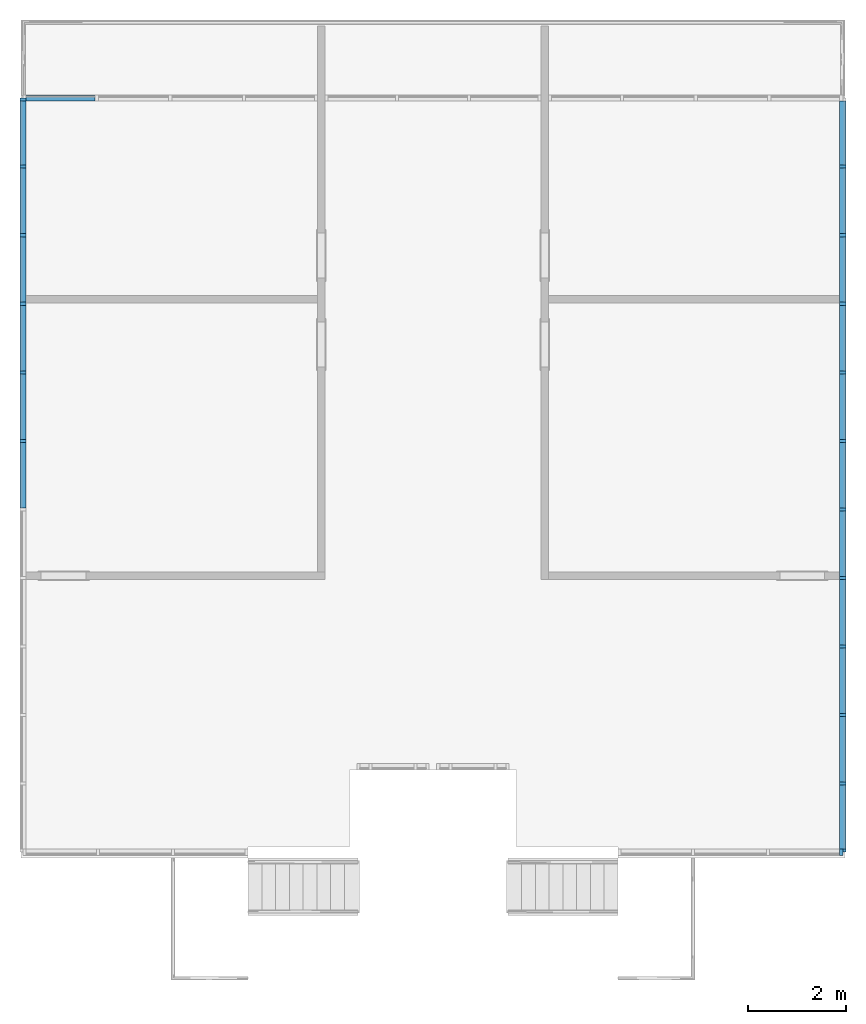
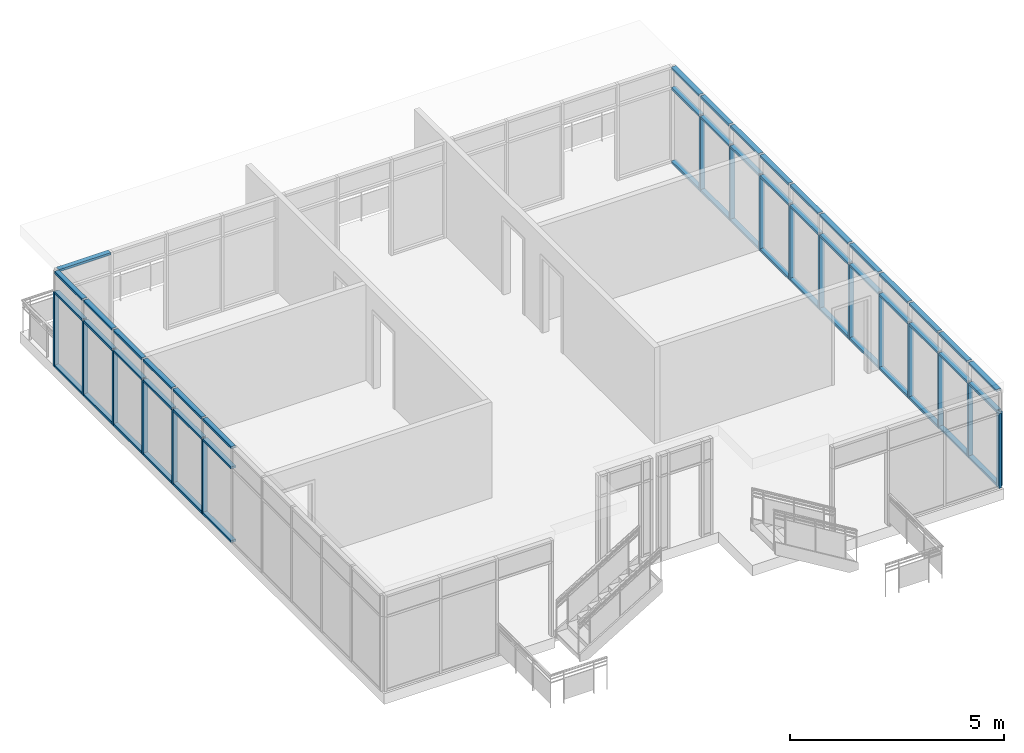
# One storey, part 2 of 11: 70 members, 4 elements without a shape of their own.
"""IFC2X3 building model written with IfcOpenShell, lengths in feet."""

from ifc_helpers import new_model, entity, si_unit, converted_unit, derived_unit, direction, frame, origin, origin_2d_with_axis, place, context, subcontext, project, spatial, rectangle, extrude, source, transform, mapped, material, type_object, type_shapes, element, aggregate, save


model = new_model("IFC2X3")

# Units and contexts
model_context = context("Model", 3, precision=0.0001, world=origin(), true_north=direction((6.12303176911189e-17, 1.0)))
body_context = subcontext(model_context, "Body", "Model", "MODEL_VIEW")
ifc_project = project(units=[converted_unit("LENGTHUNIT", "FOOT", entity("IfcRatioMeasure", 0.3048), si_unit("LENGTHUNIT", "METRE"), dimensions=[1, 0, 0, 0, 0, 0, 0]), converted_unit("AREAUNIT", "SQUARE FOOT", entity("IfcRatioMeasure", 0.09290304), si_unit("AREAUNIT", "SQUARE_METRE"), dimensions=[2, 0, 0, 0, 0, 0, 0]), converted_unit("VOLUMEUNIT", "CUBIC FOOT", entity("IfcRatioMeasure", 0.028316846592), si_unit("VOLUMEUNIT", "CUBIC_METRE"), dimensions=[3, 0, 0, 0, 0, 0, 0]), converted_unit("PLANEANGLEUNIT", "DEGREE", entity("IfcRatioMeasure", 0.0174532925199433), si_unit("PLANEANGLEUNIT", "RADIAN"), dimensions=[0, 0, 0, 0, 0, 0, 0]), si_unit("MASSUNIT", "GRAM", prefix="KILO"), derived_unit("MASSDENSITYUNIT", [(si_unit("MASSUNIT", "GRAM", prefix="KILO"), 1), (si_unit("LENGTHUNIT", "METRE"), -3)]), si_unit("TIMEUNIT", "SECOND"), si_unit("FREQUENCYUNIT", "HERTZ"), si_unit("THERMODYNAMICTEMPERATUREUNIT", "DEGREE_CELSIUS"), derived_unit("THERMALTRANSMITTANCEUNIT", [(si_unit("MASSUNIT", "GRAM", prefix="KILO"), 1), (si_unit("THERMODYNAMICTEMPERATUREUNIT", "KELVIN"), -1), (si_unit("TIMEUNIT", "SECOND"), -3)]), derived_unit("VOLUMETRICFLOWRATEUNIT", [(si_unit("LENGTHUNIT", "METRE"), 3), (si_unit("TIMEUNIT", "SECOND"), -1)]), si_unit("ELECTRICCURRENTUNIT", "AMPERE"), si_unit("ELECTRICVOLTAGEUNIT", "VOLT"), si_unit("POWERUNIT", "WATT"), si_unit("FORCEUNIT", "NEWTON"), si_unit("ILLUMINANCEUNIT", "LUX"), si_unit("LUMINOUSFLUXUNIT", "LUMEN"), si_unit("LUMINOUSINTENSITYUNIT", "CANDELA"), derived_unit("USERDEFINED", [(si_unit("MASSUNIT", "GRAM", prefix="KILO"), -1), (si_unit("LENGTHUNIT", "METRE"), -2), (si_unit("TIMEUNIT", "SECOND"), 3), (si_unit("LUMINOUSFLUXUNIT", "LUMEN"), 1)]), derived_unit("LINEARVELOCITYUNIT", [(si_unit("LENGTHUNIT", "METRE"), 1), (si_unit("TIMEUNIT", "SECOND"), -1)]), si_unit("PRESSUREUNIT", "PASCAL"), derived_unit("USERDEFINED", [(si_unit("LENGTHUNIT", "METRE"), -2), (si_unit("MASSUNIT", "GRAM", prefix="KILO"), 1), (si_unit("TIMEUNIT", "SECOND"), -2)])], contexts=[model_context])

# Site, building, storey
site_placement = place(None, origin())
site = spatial("IfcSite", under=ifc_project, at=site_placement, Name="Default", CompositionType="ELEMENT")
building_placement = place(site_placement, origin())
building = spatial("IfcBuilding", under=site, at=building_placement, CompositionType="ELEMENT")
storey_placement = place(building_placement, frame((0.0, 0.0, 50.0)))
storey = spatial("IfcBuildingStorey", under=building, at=storey_placement, Name="L 9", CompositionType="ELEMENT", Elevation=49.9999999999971)

# Curtain wall, member
curtain_wall_type = type_object("IfcCurtainWallType", Name="Curtain Wall:Storefront 2", PredefinedType="NOTDEFINED")
curtain_wall_1_placement = place(storey_placement, frame((0.0, 0.0, -50.0)))
curtain_wall_1 = element("IfcCurtainWall", 1, at=curtain_wall_1_placement, inside=storey, type_object=curtain_wall_type, Name="Curtain Wall:Storefront 2", ObjectType="Curtain Wall:Storefront 2")
ifc_material = material(Name="Aluminum")
member_type_1 = type_object("IfcMemberType", Name="2.5\" x 5\" rectangular", PredefinedType="MEMBER")
shared_shape_1 = source(origin(), body_context, "Body", "SweptSolid", [
    extrude(rectangle(XDim=0.416666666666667, YDim=0.208333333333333, at=origin_2d_with_axis()), frame((-0.104166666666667, 0.0, -7.0), z_axis=(0.0, 0.0, 1.0), x_axis=(0.0, -1.0, 0.0)), (0.0, 0.0, 1.0), 7.0),
])
type_shapes(member_type_1, [shared_shape_1])
member_1_placement = place(storey_placement, frame((-61.3251627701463, 43.3505254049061, 0.0), z_axis=(0.0, 0.0, -1.0), x_axis=(0.0, 1.0, 0.0)))
member_1 = element("IfcMember", 2, at=member_1_placement, type_object=member_type_1, material=ifc_material, Name="Rectangular Mullion:2.5\" x 5\" rectangular", ObjectType="2.5\" x 5\" rectangular", context=body_context, shape_type="MappedRepresentation", body=[
    mapped(shared_shape_1, transform((0.0, 0.0, 0.0), scale=1.0)),
])

curtain_wall_2_placement = place(storey_placement, frame((0.0, 0.0, -50.0)))
curtain_wall_2 = element("IfcCurtainWall", 3, at=curtain_wall_2_placement, inside=storey, type_object=curtain_wall_type, Name="Curtain Wall:Storefront 2", ObjectType="Curtain Wall:Storefront 2")
member_2_placement = place(storey_placement, frame((-6.65849610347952, -6.9411412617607, 0.0), z_axis=(0.0, 0.0, -1.0), x_axis=(0.0, -1.0, 0.0)))
member_2 = element("IfcMember", 4, at=member_2_placement, type_object=member_type_1, material=ifc_material, Name="Rectangular Mullion:2.5\" x 5\" rectangular", ObjectType="2.5\" x 5\" rectangular", context=body_context, shape_type="MappedRepresentation", body=[
    mapped(shared_shape_1, transform((0.0, 0.0, 0.0), scale=1.0)),
])

curtain_wall_3_placement = place(storey_placement, frame((0.0, 0.0, -50.0)))
curtain_wall_3 = element("IfcCurtainWall", 5, at=curtain_wall_3_placement, inside=storey, type_object=curtain_wall_type, Name="Curtain Wall:Storefront 2", ObjectType="Curtain Wall:Storefront 2")
member_type_2 = type_object("IfcMemberType", Name="2.5\" x 5\" rectangular", PredefinedType="MEMBER")
shared_shape_2 = source(origin(), body_context, "Body", "SweptSolid", [
    extrude(rectangle(XDim=0.416666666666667, YDim=0.208333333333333, at=origin_2d_with_axis()), frame((-0.104166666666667, 0.0, -7.0), z_axis=(0.0, 0.0, 1.0), x_axis=(0.0, -1.0, 0.0)), (0.0, 0.0, 1.0), 7.0),
])
type_shapes(member_type_2, [shared_shape_2])
member_3_placement = place(storey_placement, frame((-6.65849610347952, -6.94114126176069, 7.0)))
member_3 = element("IfcMember", 6, at=member_3_placement, type_object=member_type_2, material=ifc_material, Name="Rectangular Mullion:2.5\" x 5\" rectangular", ObjectType="2.5\" x 5\" rectangular", context=body_context, shape_type="MappedRepresentation", body=[
    mapped(shared_shape_2, transform((0.0, 0.0, 0.0), scale=1.0)),
])
aggregate(curtain_wall_3, [member_3])

# Member
member_type_3 = type_object("IfcMemberType", Name="2.5\" x 5\" rectangular", PredefinedType="MEMBER")
shared_shape_3 = source(origin(), body_context, "Body", "SweptSolid", [
    extrude(rectangle(XDim=0.416666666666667, YDim=0.208333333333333, at=origin_2d_with_axis()), frame((0.0, 0.0, -7.0), z_axis=(0.0, 0.0, 1.0), x_axis=(0.0, -1.0, 0.0)), (0.0, 0.0, 1.0), 7.0),
])
type_shapes(member_type_3, [shared_shape_3])
member_4_placement = place(storey_placement, frame((-61.3251627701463, 20.4906769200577, 0.0), z_axis=(0.0, 0.0, -1.0), x_axis=(0.0, 1.0, 0.0)))
member_4 = element("IfcMember", 7, at=member_4_placement, type_object=member_type_3, material=ifc_material, Name="Rectangular Mullion:2.5\" x 5\" rectangular", ObjectType="2.5\" x 5\" rectangular", context=body_context, shape_type="MappedRepresentation", body=[
    mapped(shared_shape_3, transform((0.0, 0.0, 0.0), scale=1.0)),
])

member_5_placement = place(storey_placement, frame((-61.3251627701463, 25.0626466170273, 0.0), z_axis=(0.0, 0.0, -1.0), x_axis=(0.0, 1.0, 0.0)))
member_5 = element("IfcMember", 8, at=member_5_placement, type_object=member_type_3, material=ifc_material, Name="Rectangular Mullion:2.5\" x 5\" rectangular", ObjectType="2.5\" x 5\" rectangular", context=body_context, shape_type="MappedRepresentation", body=[
    mapped(shared_shape_3, transform((0.0, 0.0, 0.0), scale=1.0)),
])

member_6_placement = place(storey_placement, frame((-61.3251627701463, 29.634616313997, 0.0), z_axis=(0.0, 0.0, -1.0), x_axis=(0.0, 1.0, 0.0)))
member_6 = element("IfcMember", 9, at=member_6_placement, type_object=member_type_3, material=ifc_material, Name="Rectangular Mullion:2.5\" x 5\" rectangular", ObjectType="2.5\" x 5\" rectangular", context=body_context, shape_type="MappedRepresentation", body=[
    mapped(shared_shape_3, transform((0.0, 0.0, 0.0), scale=1.0)),
])

member_7_placement = place(storey_placement, frame((-61.3251627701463, 34.2065860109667, 0.0), z_axis=(0.0, 0.0, -1.0), x_axis=(0.0, 1.0, 0.0)))
member_7 = element("IfcMember", 10, at=member_7_placement, type_object=member_type_3, material=ifc_material, Name="Rectangular Mullion:2.5\" x 5\" rectangular", ObjectType="2.5\" x 5\" rectangular", context=body_context, shape_type="MappedRepresentation", body=[
    mapped(shared_shape_3, transform((0.0, 0.0, 0.0), scale=1.0)),
])

member_8_placement = place(storey_placement, frame((-61.3251627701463, 38.7785557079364, 0.0), z_axis=(0.0, 0.0, -1.0), x_axis=(0.0, 1.0, 0.0)))
member_8 = element("IfcMember", 11, at=member_8_placement, type_object=member_type_3, material=ifc_material, Name="Rectangular Mullion:2.5\" x 5\" rectangular", ObjectType="2.5\" x 5\" rectangular", context=body_context, shape_type="MappedRepresentation", body=[
    mapped(shared_shape_3, transform((0.0, 0.0, 0.0), scale=1.0)),
])

member_9_placement = place(storey_placement, frame((-6.65849610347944, 38.7785557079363, 0.0), z_axis=(0.0, 0.0, -1.0), x_axis=(0.0, -1.0, 0.0)))
member_9 = element("IfcMember", 12, at=member_9_placement, type_object=member_type_3, material=ifc_material, Name="Rectangular Mullion:2.5\" x 5\" rectangular", ObjectType="2.5\" x 5\" rectangular", context=body_context, shape_type="MappedRepresentation", body=[
    mapped(shared_shape_3, transform((0.0, 0.0, 0.0), scale=1.0)),
])

member_10_placement = place(storey_placement, frame((-6.65849610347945, 34.2065860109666, 0.0), z_axis=(0.0, 0.0, -1.0), x_axis=(0.0, -1.0, 0.0)))
member_10 = element("IfcMember", 13, at=member_10_placement, type_object=member_type_3, material=ifc_material, Name="Rectangular Mullion:2.5\" x 5\" rectangular", ObjectType="2.5\" x 5\" rectangular", context=body_context, shape_type="MappedRepresentation", body=[
    mapped(shared_shape_3, transform((0.0, 0.0, 0.0), scale=1.0)),
])

member_11_placement = place(storey_placement, frame((-6.65849610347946, 29.6346163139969, 0.0), z_axis=(0.0, 0.0, -1.0), x_axis=(0.0, -1.0, 0.0)))
member_11 = element("IfcMember", 14, at=member_11_placement, type_object=member_type_3, material=ifc_material, Name="Rectangular Mullion:2.5\" x 5\" rectangular", ObjectType="2.5\" x 5\" rectangular", context=body_context, shape_type="MappedRepresentation", body=[
    mapped(shared_shape_3, transform((0.0, 0.0, 0.0), scale=1.0)),
])

member_12_placement = place(storey_placement, frame((-6.65849610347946, 25.0626466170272, 0.0), z_axis=(0.0, 0.0, -1.0), x_axis=(0.0, -1.0, 0.0)))
member_12 = element("IfcMember", 15, at=member_12_placement, type_object=member_type_3, material=ifc_material, Name="Rectangular Mullion:2.5\" x 5\" rectangular", ObjectType="2.5\" x 5\" rectangular", context=body_context, shape_type="MappedRepresentation", body=[
    mapped(shared_shape_3, transform((0.0, 0.0, 0.0), scale=1.0)),
])

member_13_placement = place(storey_placement, frame((-6.65849610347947, 20.4906769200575, 0.0), z_axis=(0.0, 0.0, -1.0), x_axis=(0.0, -1.0, 0.0)))
member_13 = element("IfcMember", 16, at=member_13_placement, type_object=member_type_3, material=ifc_material, Name="Rectangular Mullion:2.5\" x 5\" rectangular", ObjectType="2.5\" x 5\" rectangular", context=body_context, shape_type="MappedRepresentation", body=[
    mapped(shared_shape_3, transform((0.0, 0.0, 0.0), scale=1.0)),
])

member_14_placement = place(storey_placement, frame((-6.65849610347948, 15.9187072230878, 0.0), z_axis=(0.0, 0.0, -1.0), x_axis=(0.0, -1.0, 0.0)))
member_14 = element("IfcMember", 17, at=member_14_placement, type_object=member_type_3, material=ifc_material, Name="Rectangular Mullion:2.5\" x 5\" rectangular", ObjectType="2.5\" x 5\" rectangular", context=body_context, shape_type="MappedRepresentation", body=[
    mapped(shared_shape_3, transform((0.0, 0.0, 0.0), scale=1.0)),
])

member_15_placement = place(storey_placement, frame((-6.65849610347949, 11.3467375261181, 0.0), z_axis=(0.0, 0.0, -1.0), x_axis=(0.0, -1.0, 0.0)))
member_15 = element("IfcMember", 18, at=member_15_placement, type_object=member_type_3, material=ifc_material, Name="Rectangular Mullion:2.5\" x 5\" rectangular", ObjectType="2.5\" x 5\" rectangular", context=body_context, shape_type="MappedRepresentation", body=[
    mapped(shared_shape_3, transform((0.0, 0.0, 0.0), scale=1.0)),
])

member_16_placement = place(storey_placement, frame((-6.65849610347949, 6.77476782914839, 0.0), z_axis=(0.0, 0.0, -1.0), x_axis=(0.0, -1.0, 0.0)))
member_16 = element("IfcMember", 19, at=member_16_placement, type_object=member_type_3, material=ifc_material, Name="Rectangular Mullion:2.5\" x 5\" rectangular", ObjectType="2.5\" x 5\" rectangular", context=body_context, shape_type="MappedRepresentation", body=[
    mapped(shared_shape_3, transform((0.0, 0.0, 0.0), scale=1.0)),
])

member_17_placement = place(storey_placement, frame((-6.6584961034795, 2.20279813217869, 0.0), z_axis=(0.0, 0.0, -1.0), x_axis=(0.0, -1.0, 0.0)))
member_17 = element("IfcMember", 20, at=member_17_placement, type_object=member_type_3, material=ifc_material, Name="Rectangular Mullion:2.5\" x 5\" rectangular", ObjectType="2.5\" x 5\" rectangular", context=body_context, shape_type="MappedRepresentation", body=[
    mapped(shared_shape_3, transform((0.0, 0.0, 0.0), scale=1.0)),
])

member_18_placement = place(storey_placement, frame((-6.65849610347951, -2.369171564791, 0.0), z_axis=(0.0, 0.0, -1.0), x_axis=(0.0, -1.0, 0.0)))
member_18 = element("IfcMember", 21, at=member_18_placement, type_object=member_type_3, material=ifc_material, Name="Rectangular Mullion:2.5\" x 5\" rectangular", ObjectType="2.5\" x 5\" rectangular", context=body_context, shape_type="MappedRepresentation", body=[
    mapped(shared_shape_3, transform((0.0, 0.0, 0.0), scale=1.0)),
])

# Curtain wall, member
curtain_wall_4_placement = place(storey_placement, frame((0.0, 0.0, -50.0)))
curtain_wall_4 = element("IfcCurtainWall", 22, at=curtain_wall_4_placement, inside=storey, type_object=curtain_wall_type, Name="Curtain Wall:Storefront 2", ObjectType="Curtain Wall:Storefront 2")
member_type_4 = type_object("IfcMemberType", Name="2.5\" x 5\" rectangular", PredefinedType="MEMBER")
shared_shape_4 = source(origin(), body_context, "Body", "SweptSolid", [
    extrude(rectangle(XDim=0.416666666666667, YDim=0.208333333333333, at=origin_2d_with_axis()), frame((-0.104166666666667, 0.0, -4.59469696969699), z_axis=(0.0, 0.0, 1.0), x_axis=(0.0, -1.0, 0.0)), (0.0, 0.0, 1.0), 4.59469696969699),
])
type_shapes(member_type_4, [shared_shape_4])
member_19_placement = place(storey_placement, frame((-56.522132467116, 43.3505254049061, 9.0), z_axis=(1.0, 0.0, 0.0), x_axis=(0.0, 0.0, 1.0)))
member_19 = element("IfcMember", 23, at=member_19_placement, type_object=member_type_4, material=ifc_material, Name="Rectangular Mullion:2.5\" x 5\" rectangular", ObjectType="2.5\" x 5\" rectangular", context=body_context, shape_type="MappedRepresentation", body=[
    mapped(shared_shape_4, transform((0.0, 0.0, 0.0), scale=1.0)),
])
aggregate(curtain_wall_4, [member_19])

# Member
member_type_5 = type_object("IfcMemberType", Name="2.5\" x 5\" rectangular", PredefinedType="MEMBER")
shared_shape_5 = source(origin(), body_context, "Body", "SweptSolid", [
    extrude(rectangle(XDim=0.416666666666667, YDim=0.208333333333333, at=origin_2d_with_axis()), frame((-0.104166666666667, 0.0, -4.25946969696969), z_axis=(0.0, 0.0, 1.0), x_axis=(0.0, -1.0, 0.0)), (0.0, 0.0, 1.0), 4.2594696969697),
])
type_shapes(member_type_5, [shared_shape_5])
member_20_placement = place(storey_placement, frame((-61.3251627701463, 43.1421920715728, 9.0), z_axis=(0.0, 1.0, 0.0), x_axis=(0.0, 0.0, 1.0)))
member_20 = element("IfcMember", 24, at=member_20_placement, type_object=member_type_5, material=ifc_material, Name="Rectangular Mullion:2.5\" x 5\" rectangular", ObjectType="2.5\" x 5\" rectangular", context=body_context, shape_type="MappedRepresentation", body=[
    mapped(shared_shape_5, transform((0.0, 0.0, 0.0), scale=1.0)),
])

member_21_placement = place(storey_placement, frame((-6.65849610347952, -6.73280792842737, 9.0), z_axis=(0.0, -1.0, 0.0), x_axis=(0.0, 0.0, 1.0)))
member_21 = element("IfcMember", 25, at=member_21_placement, type_object=member_type_5, material=ifc_material, Name="Rectangular Mullion:2.5\" x 5\" rectangular", ObjectType="2.5\" x 5\" rectangular", context=body_context, shape_type="MappedRepresentation", body=[
    mapped(shared_shape_5, transform((0.0, 0.0, 0.0), scale=1.0)),
])

member_22_placement = place(storey_placement, frame((-6.65849610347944, 38.8827223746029, 9.0), z_axis=(0.0, -1.0, 0.0), x_axis=(0.0, 0.0, 1.0)))
member_22 = element("IfcMember", 26, at=member_22_placement, type_object=member_type_5, material=ifc_material, Name="Rectangular Mullion:2.5\" x 5\" rectangular", ObjectType="2.5\" x 5\" rectangular", context=body_context, shape_type="MappedRepresentation", body=[
    mapped(shared_shape_5, transform((0.0, 0.0, 0.0), scale=1.0)),
])

member_type_6 = type_object("IfcMemberType", Name="2.5\" x 5\" rectangular", PredefinedType="MEMBER")
shared_shape_6 = source(origin(), body_context, "Body", "SweptSolid", [
    extrude(rectangle(XDim=0.416666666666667, YDim=0.208333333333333, at=origin_2d_with_axis()), frame((-0.104166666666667, 0.0, -4.36363636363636), z_axis=(0.0, 0.0, 1.0), x_axis=(0.0, -1.0, 0.0)), (0.0, 0.0, 1.0), 4.36363636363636),
])
type_shapes(member_type_6, [shared_shape_6])
member_23_placement = place(storey_placement, frame((-61.3251627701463, 20.386510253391, 9.0), z_axis=(0.0, 1.0, 0.0), x_axis=(0.0, 0.0, 1.0)))
member_23 = element("IfcMember", 27, at=member_23_placement, type_object=member_type_6, material=ifc_material, Name="Rectangular Mullion:2.5\" x 5\" rectangular", ObjectType="2.5\" x 5\" rectangular", context=body_context, shape_type="MappedRepresentation", body=[
    mapped(shared_shape_6, transform((0.0, 0.0, 0.0), scale=1.0)),
])

member_24_placement = place(storey_placement, frame((-61.3251627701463, 24.9584799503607, 9.0), z_axis=(0.0, 1.0, 0.0), x_axis=(0.0, 0.0, 1.0)))
member_24 = element("IfcMember", 28, at=member_24_placement, type_object=member_type_6, material=ifc_material, Name="Rectangular Mullion:2.5\" x 5\" rectangular", ObjectType="2.5\" x 5\" rectangular", context=body_context, shape_type="MappedRepresentation", body=[
    mapped(shared_shape_6, transform((0.0, 0.0, 0.0), scale=1.0)),
])

member_25_placement = place(storey_placement, frame((-61.3251627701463, 29.5304496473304, 9.0), z_axis=(0.0, 1.0, 0.0), x_axis=(0.0, 0.0, 1.0)))
member_25 = element("IfcMember", 29, at=member_25_placement, type_object=member_type_6, material=ifc_material, Name="Rectangular Mullion:2.5\" x 5\" rectangular", ObjectType="2.5\" x 5\" rectangular", context=body_context, shape_type="MappedRepresentation", body=[
    mapped(shared_shape_6, transform((0.0, 0.0, 0.0), scale=1.0)),
])

member_26_placement = place(storey_placement, frame((-61.3251627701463, 34.1024193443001, 9.0), z_axis=(0.0, 1.0, 0.0), x_axis=(0.0, 0.0, 1.0)))
member_26 = element("IfcMember", 30, at=member_26_placement, type_object=member_type_6, material=ifc_material, Name="Rectangular Mullion:2.5\" x 5\" rectangular", ObjectType="2.5\" x 5\" rectangular", context=body_context, shape_type="MappedRepresentation", body=[
    mapped(shared_shape_6, transform((0.0, 0.0, 0.0), scale=1.0)),
])

member_27_placement = place(storey_placement, frame((-61.3251627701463, 38.6743890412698, 9.0), z_axis=(0.0, 1.0, 0.0), x_axis=(0.0, 0.0, 1.0)))
member_27 = element("IfcMember", 31, at=member_27_placement, type_object=member_type_6, material=ifc_material, Name="Rectangular Mullion:2.5\" x 5\" rectangular", ObjectType="2.5\" x 5\" rectangular", context=body_context, shape_type="MappedRepresentation", body=[
    mapped(shared_shape_6, transform((0.0, 0.0, 0.0), scale=1.0)),
])

member_28_placement = place(storey_placement, frame((-6.65849610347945, 34.3107526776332, 9.0), z_axis=(0.0, -1.0, 0.0), x_axis=(0.0, 0.0, 1.0)))
member_28 = element("IfcMember", 32, at=member_28_placement, type_object=member_type_6, material=ifc_material, Name="Rectangular Mullion:2.5\" x 5\" rectangular", ObjectType="2.5\" x 5\" rectangular", context=body_context, shape_type="MappedRepresentation", body=[
    mapped(shared_shape_6, transform((0.0, 0.0, 0.0), scale=1.0)),
])

member_29_placement = place(storey_placement, frame((-6.65849610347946, 29.7387829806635, 9.0), z_axis=(0.0, -1.0, 0.0), x_axis=(0.0, 0.0, 1.0)))
member_29 = element("IfcMember", 33, at=member_29_placement, type_object=member_type_6, material=ifc_material, Name="Rectangular Mullion:2.5\" x 5\" rectangular", ObjectType="2.5\" x 5\" rectangular", context=body_context, shape_type="MappedRepresentation", body=[
    mapped(shared_shape_6, transform((0.0, 0.0, 0.0), scale=1.0)),
])

member_30_placement = place(storey_placement, frame((-6.65849610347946, 25.1668132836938, 9.0), z_axis=(0.0, -1.0, 0.0), x_axis=(0.0, 0.0, 1.0)))
member_30 = element("IfcMember", 34, at=member_30_placement, type_object=member_type_6, material=ifc_material, Name="Rectangular Mullion:2.5\" x 5\" rectangular", ObjectType="2.5\" x 5\" rectangular", context=body_context, shape_type="MappedRepresentation", body=[
    mapped(shared_shape_6, transform((0.0, 0.0, 0.0), scale=1.0)),
])

member_31_placement = place(storey_placement, frame((-6.65849610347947, 20.5948435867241, 9.0), z_axis=(0.0, -1.0, 0.0), x_axis=(0.0, 0.0, 1.0)))
member_31 = element("IfcMember", 35, at=member_31_placement, type_object=member_type_6, material=ifc_material, Name="Rectangular Mullion:2.5\" x 5\" rectangular", ObjectType="2.5\" x 5\" rectangular", context=body_context, shape_type="MappedRepresentation", body=[
    mapped(shared_shape_6, transform((0.0, 0.0, 0.0), scale=1.0)),
])

member_32_placement = place(storey_placement, frame((-6.65849610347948, 16.0228738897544, 9.0), z_axis=(0.0, -1.0, 0.0), x_axis=(0.0, 0.0, 1.0)))
member_32 = element("IfcMember", 36, at=member_32_placement, type_object=member_type_6, material=ifc_material, Name="Rectangular Mullion:2.5\" x 5\" rectangular", ObjectType="2.5\" x 5\" rectangular", context=body_context, shape_type="MappedRepresentation", body=[
    mapped(shared_shape_6, transform((0.0, 0.0, 0.0), scale=1.0)),
])

member_33_placement = place(storey_placement, frame((-6.65849610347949, 11.4509041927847, 9.0), z_axis=(0.0, -1.0, 0.0), x_axis=(0.0, 0.0, 1.0)))
member_33 = element("IfcMember", 37, at=member_33_placement, type_object=member_type_6, material=ifc_material, Name="Rectangular Mullion:2.5\" x 5\" rectangular", ObjectType="2.5\" x 5\" rectangular", context=body_context, shape_type="MappedRepresentation", body=[
    mapped(shared_shape_6, transform((0.0, 0.0, 0.0), scale=1.0)),
])

member_34_placement = place(storey_placement, frame((-6.65849610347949, 6.87893449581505, 9.0), z_axis=(0.0, -1.0, 0.0), x_axis=(0.0, 0.0, 1.0)))
member_34 = element("IfcMember", 38, at=member_34_placement, type_object=member_type_6, material=ifc_material, Name="Rectangular Mullion:2.5\" x 5\" rectangular", ObjectType="2.5\" x 5\" rectangular", context=body_context, shape_type="MappedRepresentation", body=[
    mapped(shared_shape_6, transform((0.0, 0.0, 0.0), scale=1.0)),
])

member_35_placement = place(storey_placement, frame((-6.6584961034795, 2.30696479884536, 9.0), z_axis=(0.0, -1.0, 0.0), x_axis=(0.0, 0.0, 1.0)))
member_35 = element("IfcMember", 39, at=member_35_placement, type_object=member_type_6, material=ifc_material, Name="Rectangular Mullion:2.5\" x 5\" rectangular", ObjectType="2.5\" x 5\" rectangular", context=body_context, shape_type="MappedRepresentation", body=[
    mapped(shared_shape_6, transform((0.0, 0.0, 0.0), scale=1.0)),
])

member_36_placement = place(storey_placement, frame((-6.65849610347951, -2.26500489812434, 9.0), z_axis=(0.0, -1.0, 0.0), x_axis=(0.0, 0.0, 1.0)))
member_36 = element("IfcMember", 40, at=member_36_placement, type_object=member_type_6, material=ifc_material, Name="Rectangular Mullion:2.5\" x 5\" rectangular", ObjectType="2.5\" x 5\" rectangular", context=body_context, shape_type="MappedRepresentation", body=[
    mapped(shared_shape_6, transform((0.0, 0.0, 0.0), scale=1.0)),
])

member_type_7 = type_object("IfcMemberType", Name="2.5\" x 5\" rectangular", PredefinedType="MEMBER")
shared_shape_7 = source(origin(), body_context, "Body", "SweptSolid", [
    extrude(rectangle(XDim=0.416666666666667, YDim=0.208333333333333, at=origin_2d_with_axis()), frame((-0.104166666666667, 0.0, -4.25946969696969), z_axis=(0.0, 0.0, 1.0), x_axis=(0.0, -1.0, 0.0)), (0.0, 0.0, 1.0), 4.25946969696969),
])
type_shapes(member_type_7, [shared_shape_7])
member_37_placement = place(storey_placement, frame((-61.3251627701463, 38.8827223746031, 0.0), z_axis=(0.0, -1.0, 0.0), x_axis=(0.0, 0.0, -1.0)))
member_37 = element("IfcMember", 41, at=member_37_placement, type_object=member_type_7, material=ifc_material, Name="Rectangular Mullion:2.5\" x 5\" rectangular", ObjectType="2.5\" x 5\" rectangular", context=body_context, shape_type="MappedRepresentation", body=[
    mapped(shared_shape_7, transform((0.0, 0.0, 0.0), scale=1.0)),
])

member_38_placement = place(storey_placement, frame((-6.65849610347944, 43.1421920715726, 0.0), z_axis=(0.0, 1.0, 0.0), x_axis=(0.0, 0.0, -1.0)))
member_38 = element("IfcMember", 42, at=member_38_placement, type_object=member_type_7, material=ifc_material, Name="Rectangular Mullion:2.5\" x 5\" rectangular", ObjectType="2.5\" x 5\" rectangular", context=body_context, shape_type="MappedRepresentation", body=[
    mapped(shared_shape_7, transform((0.0, 0.0, 0.0), scale=1.0)),
])

member_39_placement = place(storey_placement, frame((-6.65849610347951, -2.47333823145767, 0.0), z_axis=(0.0, 1.0, 0.0), x_axis=(0.0, 0.0, -1.0)))
member_39 = element("IfcMember", 43, at=member_39_placement, type_object=member_type_7, material=ifc_material, Name="Rectangular Mullion:2.5\" x 5\" rectangular", ObjectType="2.5\" x 5\" rectangular", context=body_context, shape_type="MappedRepresentation", body=[
    mapped(shared_shape_7, transform((0.0, 0.0, 0.0), scale=1.0)),
])

member_type_8 = type_object("IfcMemberType", Name="2.5\" x 5\" rectangular", PredefinedType="MEMBER")
shared_shape_8 = source(origin(), body_context, "Body", "SweptSolid", [
    extrude(rectangle(XDim=0.416666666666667, YDim=0.208333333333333, at=origin_2d_with_axis()), frame((-0.104166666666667, 0.0, -4.36363636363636), z_axis=(0.0, 0.0, 1.0), x_axis=(0.0, -1.0, 0.0)), (0.0, 0.0, 1.0), 4.36363636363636),
])
type_shapes(member_type_8, [shared_shape_8])
member_40_placement = place(storey_placement, frame((-61.3251627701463, 16.0228738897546, 0.0), z_axis=(0.0, -1.0, 0.0), x_axis=(0.0, 0.0, -1.0)))
member_40 = element("IfcMember", 44, at=member_40_placement, type_object=member_type_8, material=ifc_material, Name="Rectangular Mullion:2.5\" x 5\" rectangular", ObjectType="2.5\" x 5\" rectangular", context=body_context, shape_type="MappedRepresentation", body=[
    mapped(shared_shape_8, transform((0.0, 0.0, 0.0), scale=1.0)),
])

member_41_placement = place(storey_placement, frame((-61.3251627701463, 20.5948435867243, 0.0), z_axis=(0.0, -1.0, 0.0), x_axis=(0.0, 0.0, -1.0)))
member_41 = element("IfcMember", 45, at=member_41_placement, type_object=member_type_8, material=ifc_material, Name="Rectangular Mullion:2.5\" x 5\" rectangular", ObjectType="2.5\" x 5\" rectangular", context=body_context, shape_type="MappedRepresentation", body=[
    mapped(shared_shape_8, transform((0.0, 0.0, 0.0), scale=1.0)),
])

member_42_placement = place(storey_placement, frame((-61.3251627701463, 25.166813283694, 0.0), z_axis=(0.0, -1.0, 0.0), x_axis=(0.0, 0.0, -1.0)))
member_42 = element("IfcMember", 46, at=member_42_placement, type_object=member_type_8, material=ifc_material, Name="Rectangular Mullion:2.5\" x 5\" rectangular", ObjectType="2.5\" x 5\" rectangular", context=body_context, shape_type="MappedRepresentation", body=[
    mapped(shared_shape_8, transform((0.0, 0.0, 0.0), scale=1.0)),
])

member_43_placement = place(storey_placement, frame((-61.3251627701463, 29.7387829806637, 0.0), z_axis=(0.0, -1.0, 0.0), x_axis=(0.0, 0.0, -1.0)))
member_43 = element("IfcMember", 47, at=member_43_placement, type_object=member_type_8, material=ifc_material, Name="Rectangular Mullion:2.5\" x 5\" rectangular", ObjectType="2.5\" x 5\" rectangular", context=body_context, shape_type="MappedRepresentation", body=[
    mapped(shared_shape_8, transform((0.0, 0.0, 0.0), scale=1.0)),
])

member_44_placement = place(storey_placement, frame((-61.3251627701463, 34.3107526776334, 0.0), z_axis=(0.0, -1.0, 0.0), x_axis=(0.0, 0.0, -1.0)))
member_44 = element("IfcMember", 48, at=member_44_placement, type_object=member_type_8, material=ifc_material, Name="Rectangular Mullion:2.5\" x 5\" rectangular", ObjectType="2.5\" x 5\" rectangular", context=body_context, shape_type="MappedRepresentation", body=[
    mapped(shared_shape_8, transform((0.0, 0.0, 0.0), scale=1.0)),
])

member_45_placement = place(storey_placement, frame((-6.65849610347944, 38.6743890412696, 0.0), z_axis=(0.0, 1.0, 0.0), x_axis=(0.0, 0.0, -1.0)))
member_45 = element("IfcMember", 49, at=member_45_placement, type_object=member_type_8, material=ifc_material, Name="Rectangular Mullion:2.5\" x 5\" rectangular", ObjectType="2.5\" x 5\" rectangular", context=body_context, shape_type="MappedRepresentation", body=[
    mapped(shared_shape_8, transform((0.0, 0.0, 0.0), scale=1.0)),
])

member_46_placement = place(storey_placement, frame((-6.65849610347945, 34.1024193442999, 0.0), z_axis=(0.0, 1.0, 0.0), x_axis=(0.0, 0.0, -1.0)))
member_46 = element("IfcMember", 50, at=member_46_placement, type_object=member_type_8, material=ifc_material, Name="Rectangular Mullion:2.5\" x 5\" rectangular", ObjectType="2.5\" x 5\" rectangular", context=body_context, shape_type="MappedRepresentation", body=[
    mapped(shared_shape_8, transform((0.0, 0.0, 0.0), scale=1.0)),
])

member_47_placement = place(storey_placement, frame((-6.65849610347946, 29.5304496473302, 0.0), z_axis=(0.0, 1.0, 0.0), x_axis=(0.0, 0.0, -1.0)))
member_47 = element("IfcMember", 51, at=member_47_placement, type_object=member_type_8, material=ifc_material, Name="Rectangular Mullion:2.5\" x 5\" rectangular", ObjectType="2.5\" x 5\" rectangular", context=body_context, shape_type="MappedRepresentation", body=[
    mapped(shared_shape_8, transform((0.0, 0.0, 0.0), scale=1.0)),
])

member_48_placement = place(storey_placement, frame((-6.65849610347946, 24.9584799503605, 0.0), z_axis=(0.0, 1.0, 0.0), x_axis=(0.0, 0.0, -1.0)))
member_48 = element("IfcMember", 52, at=member_48_placement, type_object=member_type_8, material=ifc_material, Name="Rectangular Mullion:2.5\" x 5\" rectangular", ObjectType="2.5\" x 5\" rectangular", context=body_context, shape_type="MappedRepresentation", body=[
    mapped(shared_shape_8, transform((0.0, 0.0, 0.0), scale=1.0)),
])

member_49_placement = place(storey_placement, frame((-6.65849610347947, 20.3865102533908, 0.0), z_axis=(0.0, 1.0, 0.0), x_axis=(0.0, 0.0, -1.0)))
member_49 = element("IfcMember", 53, at=member_49_placement, type_object=member_type_8, material=ifc_material, Name="Rectangular Mullion:2.5\" x 5\" rectangular", ObjectType="2.5\" x 5\" rectangular", context=body_context, shape_type="MappedRepresentation", body=[
    mapped(shared_shape_8, transform((0.0, 0.0, 0.0), scale=1.0)),
])

member_50_placement = place(storey_placement, frame((-6.65849610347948, 15.8145405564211, 0.0), z_axis=(0.0, 1.0, 0.0), x_axis=(0.0, 0.0, -1.0)))
member_50 = element("IfcMember", 54, at=member_50_placement, type_object=member_type_8, material=ifc_material, Name="Rectangular Mullion:2.5\" x 5\" rectangular", ObjectType="2.5\" x 5\" rectangular", context=body_context, shape_type="MappedRepresentation", body=[
    mapped(shared_shape_8, transform((0.0, 0.0, 0.0), scale=1.0)),
])

member_51_placement = place(storey_placement, frame((-6.65849610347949, 11.2425708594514, 0.0), z_axis=(0.0, 1.0, 0.0), x_axis=(0.0, 0.0, -1.0)))
member_51 = element("IfcMember", 55, at=member_51_placement, type_object=member_type_8, material=ifc_material, Name="Rectangular Mullion:2.5\" x 5\" rectangular", ObjectType="2.5\" x 5\" rectangular", context=body_context, shape_type="MappedRepresentation", body=[
    mapped(shared_shape_8, transform((0.0, 0.0, 0.0), scale=1.0)),
])

member_52_placement = place(storey_placement, frame((-6.65849610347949, 6.67060116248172, 0.0), z_axis=(0.0, 1.0, 0.0), x_axis=(0.0, 0.0, -1.0)))
member_52 = element("IfcMember", 56, at=member_52_placement, type_object=member_type_8, material=ifc_material, Name="Rectangular Mullion:2.5\" x 5\" rectangular", ObjectType="2.5\" x 5\" rectangular", context=body_context, shape_type="MappedRepresentation", body=[
    mapped(shared_shape_8, transform((0.0, 0.0, 0.0), scale=1.0)),
])

member_53_placement = place(storey_placement, frame((-6.6584961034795, 2.09863146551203, 0.0), z_axis=(0.0, 1.0, 0.0), x_axis=(0.0, 0.0, -1.0)))
member_53 = element("IfcMember", 57, at=member_53_placement, type_object=member_type_8, material=ifc_material, Name="Rectangular Mullion:2.5\" x 5\" rectangular", ObjectType="2.5\" x 5\" rectangular", context=body_context, shape_type="MappedRepresentation", body=[
    mapped(shared_shape_8, transform((0.0, 0.0, 0.0), scale=1.0)),
])

member_type_9 = type_object("IfcMemberType", Name="2.5\" x 5\" rectangular", PredefinedType="MEMBER")
shared_shape_9 = source(origin(), body_context, "Body", "SweptSolid", [
    extrude(rectangle(XDim=0.416666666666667, YDim=0.208333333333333, at=origin_2d_with_axis()), frame((0.0, 0.0, -4.2594696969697), z_axis=(0.0, 0.0, 1.0), x_axis=(0.0, -1.0, 0.0)), (0.0, 0.0, 1.0), 4.2594696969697),
])
type_shapes(member_type_9, [shared_shape_9])
member_54_placement = place(storey_placement, frame((-61.3251627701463, 43.1421920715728, 7.0), z_axis=(0.0, 1.0, 0.0), x_axis=(0.0, 0.0, 1.0)))
member_54 = element("IfcMember", 58, at=member_54_placement, type_object=member_type_9, material=ifc_material, Name="Rectangular Mullion:2.5\" x 5\" rectangular", ObjectType="2.5\" x 5\" rectangular", context=body_context, shape_type="MappedRepresentation", body=[
    mapped(shared_shape_9, transform((0.0, 0.0, 0.0), scale=1.0)),
])

member_55_placement = place(storey_placement, frame((-6.65849610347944, 38.8827223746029, 7.0), z_axis=(0.0, -1.0, 0.0), x_axis=(0.0, 0.0, 1.0)))
member_55 = element("IfcMember", 59, at=member_55_placement, type_object=member_type_9, material=ifc_material, Name="Rectangular Mullion:2.5\" x 5\" rectangular", ObjectType="2.5\" x 5\" rectangular", context=body_context, shape_type="MappedRepresentation", body=[
    mapped(shared_shape_9, transform((0.0, 0.0, 0.0), scale=1.0)),
])

member_56_placement = place(storey_placement, frame((-6.65849610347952, -6.73280792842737, 7.0), z_axis=(0.0, -1.0, 0.0), x_axis=(0.0, 0.0, 1.0)))
member_56 = element("IfcMember", 60, at=member_56_placement, type_object=member_type_9, material=ifc_material, Name="Rectangular Mullion:2.5\" x 5\" rectangular", ObjectType="2.5\" x 5\" rectangular", context=body_context, shape_type="MappedRepresentation", body=[
    mapped(shared_shape_9, transform((0.0, 0.0, 0.0), scale=1.0)),
])

member_type_10 = type_object("IfcMemberType", Name="2.5\" x 5\" rectangular", PredefinedType="MEMBER")
shared_shape_10 = source(origin(), body_context, "Body", "SweptSolid", [
    extrude(rectangle(XDim=0.416666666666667, YDim=0.208333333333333, at=origin_2d_with_axis()), frame((0.0, 0.0, -4.36363636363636), z_axis=(0.0, 0.0, 1.0), x_axis=(0.0, -1.0, 0.0)), (0.0, 0.0, 1.0), 4.36363636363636),
])
type_shapes(member_type_10, [shared_shape_10])
member_57_placement = place(storey_placement, frame((-61.3251627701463, 20.386510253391, 7.0), z_axis=(0.0, 1.0, 0.0), x_axis=(0.0, 0.0, 1.0)))
member_57 = element("IfcMember", 61, at=member_57_placement, type_object=member_type_10, material=ifc_material, Name="Rectangular Mullion:2.5\" x 5\" rectangular", ObjectType="2.5\" x 5\" rectangular", context=body_context, shape_type="MappedRepresentation", body=[
    mapped(shared_shape_10, transform((0.0, 0.0, 0.0), scale=1.0)),
])

member_58_placement = place(storey_placement, frame((-61.3251627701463, 24.9584799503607, 7.0), z_axis=(0.0, 1.0, 0.0), x_axis=(0.0, 0.0, 1.0)))
member_58 = element("IfcMember", 62, at=member_58_placement, type_object=member_type_10, material=ifc_material, Name="Rectangular Mullion:2.5\" x 5\" rectangular", ObjectType="2.5\" x 5\" rectangular", context=body_context, shape_type="MappedRepresentation", body=[
    mapped(shared_shape_10, transform((0.0, 0.0, 0.0), scale=1.0)),
])

member_59_placement = place(storey_placement, frame((-61.3251627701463, 29.5304496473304, 7.0), z_axis=(0.0, 1.0, 0.0), x_axis=(0.0, 0.0, 1.0)))
member_59 = element("IfcMember", 63, at=member_59_placement, type_object=member_type_10, material=ifc_material, Name="Rectangular Mullion:2.5\" x 5\" rectangular", ObjectType="2.5\" x 5\" rectangular", context=body_context, shape_type="MappedRepresentation", body=[
    mapped(shared_shape_10, transform((0.0, 0.0, 0.0), scale=1.0)),
])

member_60_placement = place(storey_placement, frame((-61.3251627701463, 34.1024193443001, 7.0), z_axis=(0.0, 1.0, 0.0), x_axis=(0.0, 0.0, 1.0)))
member_60 = element("IfcMember", 64, at=member_60_placement, type_object=member_type_10, material=ifc_material, Name="Rectangular Mullion:2.5\" x 5\" rectangular", ObjectType="2.5\" x 5\" rectangular", context=body_context, shape_type="MappedRepresentation", body=[
    mapped(shared_shape_10, transform((0.0, 0.0, 0.0), scale=1.0)),
])

member_61_placement = place(storey_placement, frame((-61.3251627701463, 38.6743890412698, 7.0), z_axis=(0.0, 1.0, 0.0), x_axis=(0.0, 0.0, 1.0)))
member_61 = element("IfcMember", 65, at=member_61_placement, type_object=member_type_10, material=ifc_material, Name="Rectangular Mullion:2.5\" x 5\" rectangular", ObjectType="2.5\" x 5\" rectangular", context=body_context, shape_type="MappedRepresentation", body=[
    mapped(shared_shape_10, transform((0.0, 0.0, 0.0), scale=1.0)),
])

aggregate(curtain_wall_1, [member_20, member_23, member_24, member_25, member_26, member_40, member_41, member_42, member_43, member_44, member_1, member_57, member_58, member_59, member_60, member_61, member_4, member_5, member_6, member_7, member_27, member_37, member_54, member_8])

member_62_placement = place(storey_placement, frame((-6.65849610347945, 34.3107526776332, 7.0), z_axis=(0.0, -1.0, 0.0), x_axis=(0.0, 0.0, 1.0)))
member_62 = element("IfcMember", 66, at=member_62_placement, type_object=member_type_10, material=ifc_material, Name="Rectangular Mullion:2.5\" x 5\" rectangular", ObjectType="2.5\" x 5\" rectangular", context=body_context, shape_type="MappedRepresentation", body=[
    mapped(shared_shape_10, transform((0.0, 0.0, 0.0), scale=1.0)),
])

member_63_placement = place(storey_placement, frame((-6.65849610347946, 29.7387829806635, 7.0), z_axis=(0.0, -1.0, 0.0), x_axis=(0.0, 0.0, 1.0)))
member_63 = element("IfcMember", 67, at=member_63_placement, type_object=member_type_10, material=ifc_material, Name="Rectangular Mullion:2.5\" x 5\" rectangular", ObjectType="2.5\" x 5\" rectangular", context=body_context, shape_type="MappedRepresentation", body=[
    mapped(shared_shape_10, transform((0.0, 0.0, 0.0), scale=1.0)),
])

member_64_placement = place(storey_placement, frame((-6.65849610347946, 25.1668132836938, 7.0), z_axis=(0.0, -1.0, 0.0), x_axis=(0.0, 0.0, 1.0)))
member_64 = element("IfcMember", 68, at=member_64_placement, type_object=member_type_10, material=ifc_material, Name="Rectangular Mullion:2.5\" x 5\" rectangular", ObjectType="2.5\" x 5\" rectangular", context=body_context, shape_type="MappedRepresentation", body=[
    mapped(shared_shape_10, transform((0.0, 0.0, 0.0), scale=1.0)),
])

member_65_placement = place(storey_placement, frame((-6.65849610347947, 20.5948435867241, 7.0), z_axis=(0.0, -1.0, 0.0), x_axis=(0.0, 0.0, 1.0)))
member_65 = element("IfcMember", 69, at=member_65_placement, type_object=member_type_10, material=ifc_material, Name="Rectangular Mullion:2.5\" x 5\" rectangular", ObjectType="2.5\" x 5\" rectangular", context=body_context, shape_type="MappedRepresentation", body=[
    mapped(shared_shape_10, transform((0.0, 0.0, 0.0), scale=1.0)),
])

member_66_placement = place(storey_placement, frame((-6.65849610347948, 16.0228738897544, 7.0), z_axis=(0.0, -1.0, 0.0), x_axis=(0.0, 0.0, 1.0)))
member_66 = element("IfcMember", 70, at=member_66_placement, type_object=member_type_10, material=ifc_material, Name="Rectangular Mullion:2.5\" x 5\" rectangular", ObjectType="2.5\" x 5\" rectangular", context=body_context, shape_type="MappedRepresentation", body=[
    mapped(shared_shape_10, transform((0.0, 0.0, 0.0), scale=1.0)),
])

member_67_placement = place(storey_placement, frame((-6.65849610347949, 11.4509041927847, 7.0), z_axis=(0.0, -1.0, 0.0), x_axis=(0.0, 0.0, 1.0)))
member_67 = element("IfcMember", 71, at=member_67_placement, type_object=member_type_10, material=ifc_material, Name="Rectangular Mullion:2.5\" x 5\" rectangular", ObjectType="2.5\" x 5\" rectangular", context=body_context, shape_type="MappedRepresentation", body=[
    mapped(shared_shape_10, transform((0.0, 0.0, 0.0), scale=1.0)),
])

member_68_placement = place(storey_placement, frame((-6.65849610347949, 6.87893449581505, 7.0), z_axis=(0.0, -1.0, 0.0), x_axis=(0.0, 0.0, 1.0)))
member_68 = element("IfcMember", 72, at=member_68_placement, type_object=member_type_10, material=ifc_material, Name="Rectangular Mullion:2.5\" x 5\" rectangular", ObjectType="2.5\" x 5\" rectangular", context=body_context, shape_type="MappedRepresentation", body=[
    mapped(shared_shape_10, transform((0.0, 0.0, 0.0), scale=1.0)),
])

member_69_placement = place(storey_placement, frame((-6.6584961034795, 2.30696479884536, 7.0), z_axis=(0.0, -1.0, 0.0), x_axis=(0.0, 0.0, 1.0)))
member_69 = element("IfcMember", 73, at=member_69_placement, type_object=member_type_10, material=ifc_material, Name="Rectangular Mullion:2.5\" x 5\" rectangular", ObjectType="2.5\" x 5\" rectangular", context=body_context, shape_type="MappedRepresentation", body=[
    mapped(shared_shape_10, transform((0.0, 0.0, 0.0), scale=1.0)),
])

member_70_placement = place(storey_placement, frame((-6.65849610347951, -2.26500489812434, 7.0), z_axis=(0.0, -1.0, 0.0), x_axis=(0.0, 0.0, 1.0)))
member_70 = element("IfcMember", 74, at=member_70_placement, type_object=member_type_10, material=ifc_material, Name="Rectangular Mullion:2.5\" x 5\" rectangular", ObjectType="2.5\" x 5\" rectangular", context=body_context, shape_type="MappedRepresentation", body=[
    mapped(shared_shape_10, transform((0.0, 0.0, 0.0), scale=1.0)),
])

aggregate(curtain_wall_2, [member_21, member_22, member_28, member_29, member_30, member_31, member_32, member_33, member_34, member_35, member_38, member_45, member_46, member_47, member_48, member_49, member_50, member_51, member_52, member_53, member_2, member_55, member_62, member_63, member_64, member_65, member_66, member_67, member_68, member_69, member_70, member_9, member_10, member_11, member_12, member_13, member_14, member_15, member_16, member_17, member_36, member_39, member_56, member_18])

save(model, "model.ifc")
